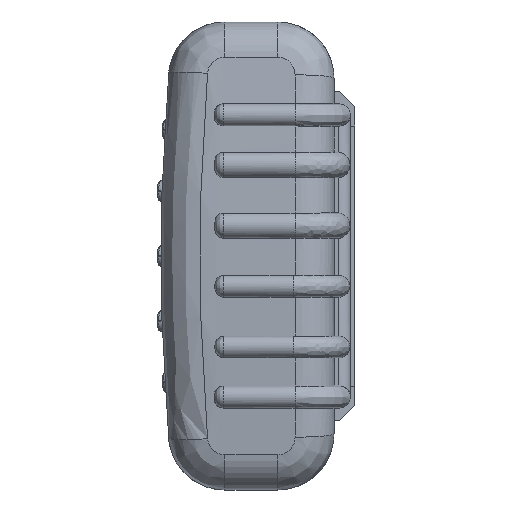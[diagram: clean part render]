
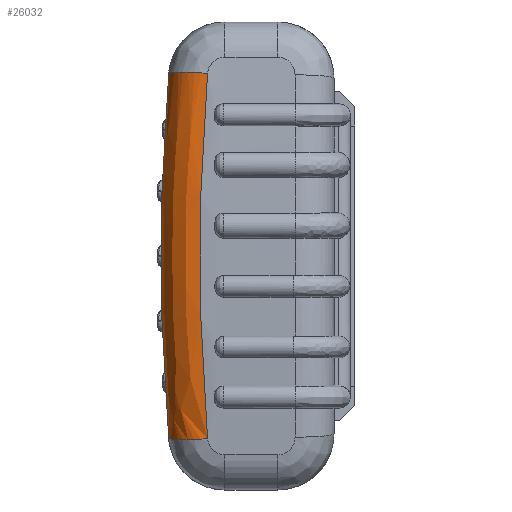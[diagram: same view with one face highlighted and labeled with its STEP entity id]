
A CAD part, left-side view. The second image highlights one B-rep face of the part: STEP entity #26032.
In plain terms, the highlighted free-form (B-spline) face has degree [3, 2] with [6, 3] control points.
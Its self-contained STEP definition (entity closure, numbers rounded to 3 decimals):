
#911 = CARTESIAN_POINT ( 'NONE',  ( 87.222, 29.188, -42.148 ) ) ;
#1014 = CARTESIAN_POINT ( 'NONE',  ( 78.259, 38.156, 42.101 ) ) ;
#3848 = CARTESIAN_POINT ( 'NONE',  ( 79.489, 39.335, 28.227 ) ) ;
#4029 = CARTESIAN_POINT ( 'NONE',  ( 78.259, 38.156, 42.101 ) ) ;
#5384 = CARTESIAN_POINT ( 'NONE',  ( 80.121, 39.941, 14.101 ) ) ;
#5739 = B_SPLINE_CURVE_WITH_KNOTS ( 'NONE', 3,
 ( #50449, #46090, #33215, #7373, #37564, #11686 ),
 .UNSPECIFIED., .F., .F.,
 ( 4, 2, 4 ),
 ( 0.004, 0.046, 0.088 ),
 .UNSPECIFIED. ) ;
#5866 = EDGE_CURVE ( 'NONE', #7890, #7020, #10066, .T. ) ;
#7020 = VERTEX_POINT ( 'NONE', #51428 ) ;
#7373 = CARTESIAN_POINT ( 'NONE',  ( 89.121, 30.941, 14.107 ) ) ;
#7890 = VERTEX_POINT ( 'NONE', #911 ) ;
#8233 = CARTESIAN_POINT ( 'NONE',  ( 89.121, 39.941, 14.469 ) ) ;
#8384 = ORIENTED_EDGE ( 'NONE', *, *, #17987, .F. ) ;
#9348 = EDGE_LOOP ( 'NONE', ( #8384, #50313, #30863, #55290 ) ) ;
#9361 = CARTESIAN_POINT ( 'NONE',  ( 78.259, 29.188, -41.339 ) ) ;
#9731 = CARTESIAN_POINT ( 'NONE',  ( 79.497, 39.343, -28.135 ) ) ;
#10066 = CIRCLE ( 'NONE', #13406, 9. ) ;
#11253 =( BOUNDED_SURFACE ( )  B_SPLINE_SURFACE ( 3, 2, ( 
 ( #46949, #28764, #25327 ),
 ( #55658, #29735, #3848 ),
 ( #34084, #8233, #38443 ),
 ( #12554, #42796, #16889 ),
 ( #47153, #21201, #51496 ),
 ( #25521, #55856, #29909 ) ),
 .UNSPECIFIED., .F., .F., .F. ) 
 B_SPLINE_SURFACE_WITH_KNOTS ( ( 4, 2, 4 ),
 ( 3, 3 ),
 ( 0.084, 0.125, 0.166 ),
 ( 0., 1. ),
 .UNSPECIFIED. ) 
 GEOMETRIC_REPRESENTATION_ITEM ( )  RATIONAL_B_SPLINE_SURFACE ( (
 ( 1., 0.71, 1.),
 ( 1., 0.708, 1.),
 ( 1., 0.707, 1.),
 ( 1., 0.707, 1.),
 ( 1., 0.708, 1.),
 ( 1., 0.71, 1.) ) ) 
 REPRESENTATION_ITEM ( '' )  SURFACE ( )  );
#11686 = CARTESIAN_POINT ( 'NONE',  ( 87.222, 29.188, 42.148 ) ) ;
#12083 = CIRCLE ( 'NONE', #30146, 9. ) ;
#12554 = CARTESIAN_POINT ( 'NONE',  ( 89.121, 30.941, -14.212 ) ) ;
#13406 = AXIS2_PLACEMENT_3D ( 'NONE', #9361, #39574, #13671 ) ;
#13671 = DIRECTION ( 'NONE',  ( 0.996, 0., -0.09 ) ) ;
#13864 = CARTESIAN_POINT ( 'NONE',  ( 79.497, 39.343, 28.135 ) ) ;
#16889 = CARTESIAN_POINT ( 'NONE',  ( 80.121, 39.941, -14.196 ) ) ;
#17293 = DIRECTION ( 'NONE',  ( 0.09, 0.084, -0.992 ) ) ;
#17987 = EDGE_CURVE ( 'NONE', #7890, #37792, #5739, .T. ) ;
#21201 = CARTESIAN_POINT ( 'NONE',  ( 88.456, 39.314, -28.734 ) ) ;
#22430 = B_SPLINE_CURVE_WITH_KNOTS ( 'NONE', 3,
 ( #1014, #13864, #5384, #35582, #9731, #39948 ),
 .UNSPECIFIED., .F., .F.,
 ( 4, 2, 4 ),
 ( 0.012, 0.054, 0.096 ),
 .UNSPECIFIED. ) ;
#24179 = CARTESIAN_POINT ( 'NONE',  ( 87.222, 29.188, 42.148 ) ) ;
#25327 = CARTESIAN_POINT ( 'NONE',  ( 78.259, 38.156, 42.101 ) ) ;
#25521 = CARTESIAN_POINT ( 'NONE',  ( 87.222, 29.188, -42.148 ) ) ;
#26032 = ADVANCED_FACE ( 'NONE', ( #31407 ), #11253, .T. ) ;
#28764 = CARTESIAN_POINT ( 'NONE',  ( 87.154, 38.088, 42.898 ) ) ;
#29735 = CARTESIAN_POINT ( 'NONE',  ( 88.456, 39.314, 28.734 ) ) ;
#29909 = CARTESIAN_POINT ( 'NONE',  ( 78.259, 38.156, -42.101 ) ) ;
#30146 = AXIS2_PLACEMENT_3D ( 'NONE', #43207, #17293, #47573 ) ;
#30863 = ORIENTED_EDGE ( 'NONE', *, *, #53070, .F. ) ;
#31407 = FACE_OUTER_BOUND ( 'NONE', #9348, .T. ) ;
#33215 = CARTESIAN_POINT ( 'NONE',  ( 89.121, 30.941, -14.107 ) ) ;
#34084 = CARTESIAN_POINT ( 'NONE',  ( 89.121, 30.941, 14.212 ) ) ;
#35530 = VERTEX_POINT ( 'NONE', #4029 ) ;
#35582 = CARTESIAN_POINT ( 'NONE',  ( 80.121, 39.941, -14.101 ) ) ;
#37564 = CARTESIAN_POINT ( 'NONE',  ( 88.486, 30.354, 28.156 ) ) ;
#37792 = VERTEX_POINT ( 'NONE', #24179 ) ;
#38443 = CARTESIAN_POINT ( 'NONE',  ( 80.121, 39.941, 14.196 ) ) ;
#39574 = DIRECTION ( 'NONE',  ( 0.09, 0.084, 0.992 ) ) ;
#39948 = CARTESIAN_POINT ( 'NONE',  ( 78.259, 38.156, -42.101 ) ) ;
#42796 = CARTESIAN_POINT ( 'NONE',  ( 89.121, 39.941, -14.469 ) ) ;
#43207 = CARTESIAN_POINT ( 'NONE',  ( 78.259, 29.188, 41.339 ) ) ;
#46090 = CARTESIAN_POINT ( 'NONE',  ( 88.486, 30.354, -28.156 ) ) ;
#46949 = CARTESIAN_POINT ( 'NONE',  ( 87.222, 29.188, 42.148 ) ) ;
#47153 = CARTESIAN_POINT ( 'NONE',  ( 88.476, 30.346, -28.258 ) ) ;
#47573 = DIRECTION ( 'NONE',  ( -0.996, 0., -0.09 ) ) ;
#50313 = ORIENTED_EDGE ( 'NONE', *, *, #5866, .T. ) ;
#50449 = CARTESIAN_POINT ( 'NONE',  ( 87.222, 29.188, -42.148 ) ) ;
#51242 = EDGE_CURVE ( 'NONE', #35530, #37792, #12083, .T. ) ;
#51428 = CARTESIAN_POINT ( 'NONE',  ( 78.259, 38.156, -42.101 ) ) ;
#51496 = CARTESIAN_POINT ( 'NONE',  ( 79.489, 39.335, -28.227 ) ) ;
#53070 = EDGE_CURVE ( 'NONE', #35530, #7020, #22430, .T. ) ;
#55290 = ORIENTED_EDGE ( 'NONE', *, *, #51242, .T. ) ;
#55658 = CARTESIAN_POINT ( 'NONE',  ( 88.476, 30.346, 28.258 ) ) ;
#55856 = CARTESIAN_POINT ( 'NONE',  ( 87.154, 38.088, -42.898 ) ) ;
